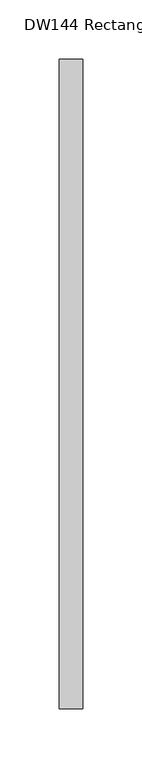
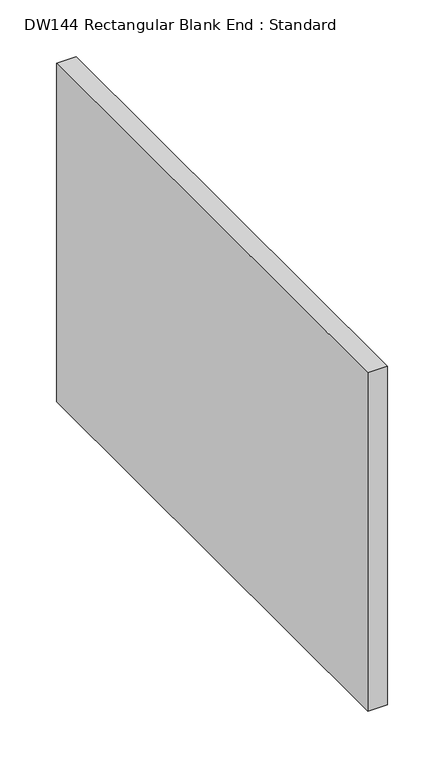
"""IFC4 building model written with IfcOpenShell, lengths in millimetres: duct fitting geometry, DW144 Rectangular Blank End : Standard."""

from ifc_helpers import new_model, si_unit, frame, origin, place, context, project, spatial, polyline, outline, extrude, source, transform, mapped, element, save


def dw144_rectangular_blank_end_standard_af3a9df3(model_context):
    return source(origin(), model_context, "Body", "SweptSolid", [
        extrude(outline(polyline([(20.0, 275.0), (20.0, -275.0), (0.0, -275.0), (0.0, 275.0), (20.0, 275.0)])), frame((0.0, 0.0, -182.5), z_axis=(0.0, 0.0, 1.0), x_axis=(1.0, 0.0, 0.0)), (0.0, 0.0, 1.0), 365.0),
    ])


if __name__ == "__main__":
    model = new_model("IFC4")
    model_context = context("Model", 3, world=origin())
    ifc_project = project(units=[si_unit("LENGTHUNIT", "METRE", prefix="MILLI")], contexts=[model_context])
    site = spatial("IfcSite", under=ifc_project)
    building = spatial("IfcBuilding", under=site)
    placement = place(None, origin())
    dw144_rectangular_blank_end_standard_shape = dw144_rectangular_blank_end_standard_af3a9df3(model_context)
    element("IfcDuctFitting", 1, ObjectType="DW144 Rectangular Blank End : Standard", at=placement, inside=building, context=model_context, shape_type="MappedRepresentation", body=[
        mapped(dw144_rectangular_blank_end_standard_shape, transform((0.0, 0.0, 0.0), x_axis=(1.0, 0.0, 0.0), y_axis=(0.0, 1.0, 0.0), z_axis=(0.0, 0.0, 1.0))),
    ])
    save(model, "model.ifc")
